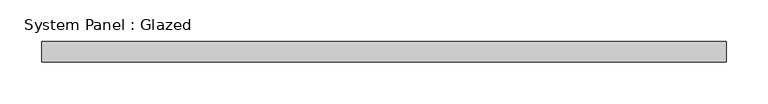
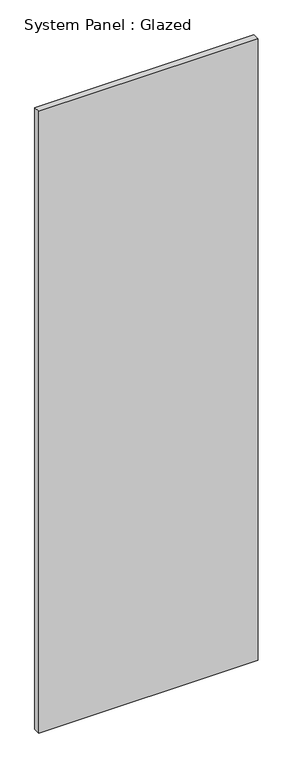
"""IFC4 building model written with IfcOpenShell, lengths in millimetres: plate geometry, System Panel : Glazed."""

from ifc_helpers import new_model, si_unit, origin, origin_with_axes, place, context, project, spatial, polyline, outline, extrude, source, transform, mapped, element, save


def system_panel_glazed_8b30d0e9(model_context):
    return source(origin(), model_context, "Body", "SweptSolid", [
        extrude(outline(polyline([(412.5000002, 24.5), (-412.5000002, 24.5), (-412.5000002, 49.5), (412.5000002, 49.5), (412.5000002, 24.5)])), origin_with_axes(), (0.0, 0.0, 1.0), 2470.0),
    ])


if __name__ == "__main__":
    model = new_model("IFC4")
    model_context = context("Model", 3, world=origin())
    ifc_project = project(units=[si_unit("LENGTHUNIT", "METRE", prefix="MILLI")], contexts=[model_context])
    site = spatial("IfcSite", under=ifc_project)
    building = spatial("IfcBuilding", under=site)
    placement = place(None, origin())
    system_panel_glazed_shape = system_panel_glazed_8b30d0e9(model_context)
    element("IfcPlate", 1, ObjectType="System Panel : Glazed", at=placement, inside=building, context=model_context, shape_type="MappedRepresentation", body=[
        mapped(system_panel_glazed_shape, transform((0.0, 0.0, 0.0), x_axis=(1.0, 0.0, 0.0), y_axis=(0.0, 1.0, 0.0), z_axis=(0.0, 0.0, 1.0))),
    ])
    save(model, "model.ifc")
